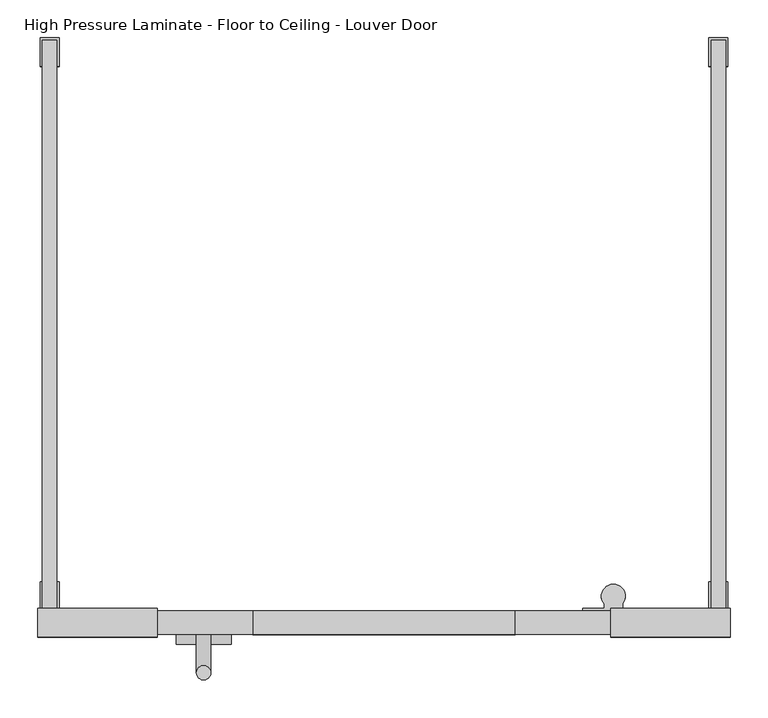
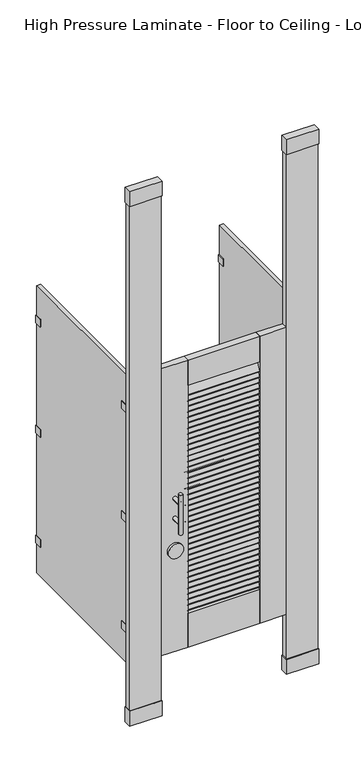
"""IFC4 building model written with IfcOpenShell, lengths in millimetres: proxy geometry, Toilet-Partition_Ironwood-Mfg_High-Pressure-Laminate : High Pressure Laminate - Floor to Ceiling - Louver Door."""

from ifc_helpers import new_model, si_unit, point, frame, frame_2d, origin, origin_with_axes, place, context, project, spatial, polyline, circle_curve, ellipse_curve, trimmed, segment, composite_curve, outline, extrude, source, transform, mapped, element, save
from ifc_brep_helpers import plane_surface, cylinder_surface, advanced_brep


def high_pressure_laminate_floor_to_ceiling_louver_door_e7c8061b(model_context):
    return source(origin(), model_context, "Body", "SolidModel", [
        extrude(outline(polyline([(542.925, -796.925), (542.925, -758.825), (701.675, -758.825), (701.675, -796.925), (542.925, -796.925)])), frame((0.0, 0.0, 2667.0), z_axis=(0.0, 0.0, 1.0), x_axis=(1.0, 0.0, 0.0)), (0.0, 0.0, 1.0), 76.1999999),
        extrude(outline(polyline([(701.675, -758.825), (701.675, -796.925), (542.925, -796.925), (542.925, -758.825), (701.675, -758.825)])), origin_with_axes(), (0.0, 0.0, 1.0), 76.2),
        extrude(outline(polyline([(698.5, -762.0), (698.5, -793.75), (546.1, -793.75), (546.1, -762.0), (698.5, -762.0)])), origin_with_axes(), (0.0, 0.0, 1.0), 2667.0),
        extrude(outline(polyline([(-60.325, -796.925), (-219.075, -796.925), (-219.075, -758.825), (-60.325, -758.825), (-60.325, -796.925)])), frame((0.0, 0.0, 2667.0), z_axis=(0.0, 0.0, 1.0), x_axis=(1.0, 0.0, 0.0)), (0.0, 0.0, 1.0), 76.1999999),
        extrude(outline(polyline([(-219.075, -758.825), (-60.325, -758.825), (-60.325, -796.925), (-219.075, -796.925), (-219.075, -758.825)])), origin_with_axes(), (0.0, 0.0, 1.0), 76.2),
        extrude(outline(polyline([(-215.9, -762.0), (-63.5, -762.0), (-63.5, -793.75), (-215.9, -793.75), (-215.9, -762.0)])), origin_with_axes(), (0.0, 0.0, 1.0), 2667.0),
        extrude(outline(composite_curve([segment(polyline([(-764.1333548, 1605.1687721), (-783.2892514, 1565.8933636)]), True, "CONTINUOUS"), segment(trimmed(circle_curve(frame_2d((-787.5697581, 1567.9811062)), 4.7625), [point((-783.2892514, 1565.8933636))], [point((-791.8502647, 1570.0688488))], False, "CARTESIAN"), True, "CONTINUOUS"), segment(polyline([(-791.8502647, 1570.0688488), (-772.6943681, 1609.3442573)]), True, "CONTINUOUS"), segment(trimmed(circle_curve(frame_2d((-768.4138614, 1607.2565147)), 4.7625), [point((-772.6943681, 1609.3442573))], [point((-764.1333548, 1605.1687721))], False, "CARTESIAN"), True, "CONTINUOUS")], self_intersect=False)), frame((66.675, 0.0, 0.0), z_axis=(1.0, 0.0, 0.0), x_axis=(0.0, 1.0, 0.0)), (0.0, 0.0, 1.0), 349.25),
        extrude(outline(composite_curve([segment(polyline([(-764.1333548, 1576.8525178), (-783.2892514, 1537.5771093)]), True, "CONTINUOUS"), segment(trimmed(circle_curve(frame_2d((-787.5697581, 1539.6648519)), 4.7625), [point((-783.2892514, 1537.5771093))], [point((-791.8502647, 1541.7525944))], False, "CARTESIAN"), True, "CONTINUOUS"), segment(polyline([(-791.8502647, 1541.7525944), (-772.6943681, 1581.0280029)]), True, "CONTINUOUS"), segment(trimmed(circle_curve(frame_2d((-768.4138614, 1578.9402604)), 4.7625), [point((-772.6943681, 1581.0280029))], [point((-764.1333548, 1576.8525178))], False, "CARTESIAN"), True, "CONTINUOUS")], self_intersect=False)), frame((66.675, 0.0, 0.0), z_axis=(1.0, 0.0, 0.0), x_axis=(0.0, 1.0, 0.0)), (0.0, 0.0, 1.0), 349.25),
        extrude(outline(composite_curve([segment(polyline([(-764.1333548, 1548.5362634), (-783.2892514, 1509.2608549)]), True, "CONTINUOUS"), segment(trimmed(circle_curve(frame_2d((-787.5697581, 1511.3485975)), 4.7625), [point((-783.2892514, 1509.2608549))], [point((-791.8502647, 1513.4363401))], False, "CARTESIAN"), True, "CONTINUOUS"), segment(polyline([(-791.8502647, 1513.4363401), (-772.6943681, 1552.7117486)]), True, "CONTINUOUS"), segment(trimmed(circle_curve(frame_2d((-768.4138614, 1550.624006)), 4.7625), [point((-772.6943681, 1552.7117486))], [point((-764.1333548, 1548.5362634))], False, "CARTESIAN"), True, "CONTINUOUS")], self_intersect=False)), frame((66.675, 0.0, 0.0), z_axis=(1.0, 0.0, 0.0), x_axis=(0.0, 1.0, 0.0)), (0.0, 0.0, 1.0), 349.25),
        extrude(outline(composite_curve([segment(polyline([(-764.1333548, 1520.220009), (-783.2892514, 1480.9446005)]), True, "CONTINUOUS"), segment(trimmed(circle_curve(frame_2d((-787.5697581, 1483.0323431)), 4.7625), [point((-783.2892514, 1480.9446005))], [point((-791.8502647, 1485.1200857))], False, "CARTESIAN"), True, "CONTINUOUS"), segment(polyline([(-791.8502647, 1485.1200857), (-772.6943681, 1524.3954942)]), True, "CONTINUOUS"), segment(trimmed(circle_curve(frame_2d((-768.4138614, 1522.3077516)), 4.7625), [point((-772.6943681, 1524.3954942))], [point((-764.1333548, 1520.220009))], False, "CARTESIAN"), True, "CONTINUOUS")], self_intersect=False)), frame((66.675, 0.0, 0.0), z_axis=(1.0, 0.0, 0.0), x_axis=(0.0, 1.0, 0.0)), (0.0, 0.0, 1.0), 349.25),
        extrude(outline(composite_curve([segment(polyline([(-764.1333548, 1491.9037547), (-783.2892514, 1452.6283462)]), True, "CONTINUOUS"), segment(trimmed(circle_curve(frame_2d((-787.5697581, 1454.7160888)), 4.7625), [point((-783.2892514, 1452.6283462))], [point((-791.8502647, 1456.8038313))], False, "CARTESIAN"), True, "CONTINUOUS"), segment(polyline([(-791.8502647, 1456.8038313), (-772.6943681, 1496.0792398)]), True, "CONTINUOUS"), segment(trimmed(circle_curve(frame_2d((-768.4138614, 1493.9914973)), 4.7625), [point((-772.6943681, 1496.0792398))], [point((-764.1333548, 1491.9037547))], False, "CARTESIAN"), True, "CONTINUOUS")], self_intersect=False)), frame((66.675, 0.0, 0.0), z_axis=(1.0, 0.0, 0.0), x_axis=(0.0, 1.0, 0.0)), (0.0, 0.0, 1.0), 349.25),
        extrude(outline(composite_curve([segment(polyline([(-764.1333548, 1463.5875003), (-783.2892514, 1424.3120918)]), True, "CONTINUOUS"), segment(trimmed(circle_curve(frame_2d((-787.5697581, 1426.3998344)), 4.7625), [point((-783.2892514, 1424.3120918))], [point((-791.8502647, 1428.487577))], False, "CARTESIAN"), True, "CONTINUOUS"), segment(polyline([(-791.8502647, 1428.487577), (-772.6943681, 1467.7629855)]), True, "CONTINUOUS"), segment(trimmed(circle_curve(frame_2d((-768.4138614, 1465.6752429)), 4.7625), [point((-772.6943681, 1467.7629855))], [point((-764.1333548, 1463.5875003))], False, "CARTESIAN"), True, "CONTINUOUS")], self_intersect=False)), frame((66.675, 0.0, 0.0), z_axis=(1.0, 0.0, 0.0), x_axis=(0.0, 1.0, 0.0)), (0.0, 0.0, 1.0), 349.25),
        extrude(outline(composite_curve([segment(polyline([(-764.1333548, 1435.2712459), (-783.2892514, 1395.9958374)]), True, "CONTINUOUS"), segment(trimmed(circle_curve(frame_2d((-787.5697581, 1398.08358)), 4.7625), [point((-783.2892514, 1395.9958374))], [point((-791.8502647, 1400.1713226))], False, "CARTESIAN"), True, "CONTINUOUS"), segment(polyline([(-791.8502647, 1400.1713226), (-772.6943681, 1439.4467311)]), True, "CONTINUOUS"), segment(trimmed(circle_curve(frame_2d((-768.4138614, 1437.3589885)), 4.7625), [point((-772.6943681, 1439.4467311))], [point((-764.1333548, 1435.2712459))], False, "CARTESIAN"), True, "CONTINUOUS")], self_intersect=False)), frame((66.675, 0.0, 0.0), z_axis=(1.0, 0.0, 0.0), x_axis=(0.0, 1.0, 0.0)), (0.0, 0.0, 1.0), 349.25),
        extrude(outline(composite_curve([segment(polyline([(-764.1333548, 1406.9549916), (-783.2892514, 1367.6795831)]), True, "CONTINUOUS"), segment(trimmed(circle_curve(frame_2d((-787.5697581, 1369.7673257)), 4.7625), [point((-783.2892514, 1367.6795831))], [point((-791.8502647, 1371.8550682))], False, "CARTESIAN"), True, "CONTINUOUS"), segment(polyline([(-791.8502647, 1371.8550682), (-772.6943681, 1411.1304767)]), True, "CONTINUOUS"), segment(trimmed(circle_curve(frame_2d((-768.4138614, 1409.0427342)), 4.7625), [point((-772.6943681, 1411.1304767))], [point((-764.1333548, 1406.9549916))], False, "CARTESIAN"), True, "CONTINUOUS")], self_intersect=False)), frame((66.675, 0.0, 0.0), z_axis=(1.0, 0.0, 0.0), x_axis=(0.0, 1.0, 0.0)), (0.0, 0.0, 1.0), 349.25),
        extrude(outline(composite_curve([segment(polyline([(-764.1333548, 1378.6387372), (-783.2892514, 1339.3633287)]), True, "CONTINUOUS"), segment(trimmed(circle_curve(frame_2d((-787.5697581, 1341.4510713)), 4.7625), [point((-783.2892514, 1339.3633287))], [point((-791.8502647, 1343.5388139))], False, "CARTESIAN"), True, "CONTINUOUS"), segment(polyline([(-791.8502647, 1343.5388139), (-772.6943681, 1382.8142224)]), True, "CONTINUOUS"), segment(trimmed(circle_curve(frame_2d((-768.4138614, 1380.7264798)), 4.7625), [point((-772.6943681, 1382.8142224))], [point((-764.1333548, 1378.6387372))], False, "CARTESIAN"), True, "CONTINUOUS")], self_intersect=False)), frame((66.675, 0.0, 0.0), z_axis=(1.0, 0.0, 0.0), x_axis=(0.0, 1.0, 0.0)), (0.0, 0.0, 1.0), 349.25),
        extrude(outline(composite_curve([segment(polyline([(-764.1333548, 1350.3224828), (-783.2892514, 1311.0470743)]), True, "CONTINUOUS"), segment(trimmed(circle_curve(frame_2d((-787.5697581, 1313.1348169)), 4.7625), [point((-783.2892514, 1311.0470743))], [point((-791.8502647, 1315.2225595))], False, "CARTESIAN"), True, "CONTINUOUS"), segment(polyline([(-791.8502647, 1315.2225595), (-772.6943681, 1354.497968)]), True, "CONTINUOUS"), segment(trimmed(circle_curve(frame_2d((-768.4138614, 1352.4102254)), 4.7625), [point((-772.6943681, 1354.497968))], [point((-764.1333548, 1350.3224828))], False, "CARTESIAN"), True, "CONTINUOUS")], self_intersect=False)), frame((66.675, 0.0, 0.0), z_axis=(1.0, 0.0, 0.0), x_axis=(0.0, 1.0, 0.0)), (0.0, 0.0, 1.0), 349.25),
        extrude(outline(composite_curve([segment(polyline([(-764.1333548, 1322.0062285), (-783.2892514, 1282.73082)]), True, "CONTINUOUS"), segment(trimmed(circle_curve(frame_2d((-787.5697581, 1284.8185626)), 4.7625), [point((-783.2892514, 1282.73082))], [point((-791.8502647, 1286.9063052))], False, "CARTESIAN"), True, "CONTINUOUS"), segment(polyline([(-791.8502647, 1286.9063052), (-772.6943681, 1326.1817137)]), True, "CONTINUOUS"), segment(trimmed(circle_curve(frame_2d((-768.4138614, 1324.0939711)), 4.7625), [point((-772.6943681, 1326.1817137))], [point((-764.1333548, 1322.0062285))], False, "CARTESIAN"), True, "CONTINUOUS")], self_intersect=False)), frame((66.675, 0.0, 0.0), z_axis=(1.0, 0.0, 0.0), x_axis=(0.0, 1.0, 0.0)), (0.0, 0.0, 1.0), 349.25),
        extrude(outline(composite_curve([segment(polyline([(-764.1333548, 1293.6899741), (-783.2892514, 1254.4145656)]), True, "CONTINUOUS"), segment(trimmed(circle_curve(frame_2d((-787.5697581, 1256.5023082)), 4.7625), [point((-783.2892514, 1254.4145656))], [point((-791.8502647, 1258.5900508))], False, "CARTESIAN"), True, "CONTINUOUS"), segment(polyline([(-791.8502647, 1258.5900508), (-772.6943681, 1297.8654593)]), True, "CONTINUOUS"), segment(trimmed(circle_curve(frame_2d((-768.4138614, 1295.7777167)), 4.7625), [point((-772.6943681, 1297.8654593))], [point((-764.1333548, 1293.6899741))], False, "CARTESIAN"), True, "CONTINUOUS")], self_intersect=False)), frame((66.675, 0.0, 0.0), z_axis=(1.0, 0.0, 0.0), x_axis=(0.0, 1.0, 0.0)), (0.0, 0.0, 1.0), 349.25),
        extrude(outline(composite_curve([segment(polyline([(-764.1333548, 1265.3737197), (-783.2892514, 1226.0983112)]), True, "CONTINUOUS"), segment(trimmed(circle_curve(frame_2d((-787.5697581, 1228.1860538)), 4.7625), [point((-783.2892514, 1226.0983112))], [point((-791.8502647, 1230.2737964))], False, "CARTESIAN"), True, "CONTINUOUS"), segment(polyline([(-791.8502647, 1230.2737964), (-772.6943681, 1269.5492049)]), True, "CONTINUOUS"), segment(trimmed(circle_curve(frame_2d((-768.4138614, 1267.4614623)), 4.7625), [point((-772.6943681, 1269.5492049))], [point((-764.1333548, 1265.3737197))], False, "CARTESIAN"), True, "CONTINUOUS")], self_intersect=False)), frame((66.675, 0.0, 0.0), z_axis=(1.0, 0.0, 0.0), x_axis=(0.0, 1.0, 0.0)), (0.0, 0.0, 1.0), 349.25),
        extrude(outline(composite_curve([segment(polyline([(-764.1333548, 1237.0574654), (-783.2892514, 1197.7820569)]), True, "CONTINUOUS"), segment(trimmed(circle_curve(frame_2d((-787.5697581, 1199.8697995)), 4.7625), [point((-783.2892514, 1197.7820569))], [point((-791.8502647, 1201.9575421))], False, "CARTESIAN"), True, "CONTINUOUS"), segment(polyline([(-791.8502647, 1201.9575421), (-772.6943681, 1241.2329506)]), True, "CONTINUOUS"), segment(trimmed(circle_curve(frame_2d((-768.4138614, 1239.145208)), 4.7625), [point((-772.6943681, 1241.2329506))], [point((-764.1333548, 1237.0574654))], False, "CARTESIAN"), True, "CONTINUOUS")], self_intersect=False)), frame((66.675, 0.0, 0.0), z_axis=(1.0, 0.0, 0.0), x_axis=(0.0, 1.0, 0.0)), (0.0, 0.0, 1.0), 349.25),
        extrude(outline(composite_curve([segment(polyline([(-764.1333548, 1208.741211), (-783.2892514, 1169.4658025)]), True, "CONTINUOUS"), segment(trimmed(circle_curve(frame_2d((-787.5697581, 1171.5535451)), 4.7625), [point((-783.2892514, 1169.4658025))], [point((-791.8502647, 1173.6412877))], False, "CARTESIAN"), True, "CONTINUOUS"), segment(polyline([(-791.8502647, 1173.6412877), (-772.6943681, 1212.9166962)]), True, "CONTINUOUS"), segment(trimmed(circle_curve(frame_2d((-768.4138614, 1210.8289536)), 4.7625), [point((-772.6943681, 1212.9166962))], [point((-764.1333548, 1208.741211))], False, "CARTESIAN"), True, "CONTINUOUS")], self_intersect=False)), frame((66.675, 0.0, 0.0), z_axis=(1.0, 0.0, 0.0), x_axis=(0.0, 1.0, 0.0)), (0.0, 0.0, 1.0), 349.25),
        extrude(outline(composite_curve([segment(polyline([(-764.1333548, 1180.4249567), (-783.2892514, 1141.1495482)]), True, "CONTINUOUS"), segment(trimmed(circle_curve(frame_2d((-787.5697581, 1143.2372907)), 4.7625), [point((-783.2892514, 1141.1495482))], [point((-791.8502647, 1145.3250333))], False, "CARTESIAN"), True, "CONTINUOUS"), segment(polyline([(-791.8502647, 1145.3250333), (-772.6943681, 1184.6004418)]), True, "CONTINUOUS"), segment(trimmed(circle_curve(frame_2d((-768.4138614, 1182.5126992)), 4.7625), [point((-772.6943681, 1184.6004418))], [point((-764.1333548, 1180.4249567))], False, "CARTESIAN"), True, "CONTINUOUS")], self_intersect=False)), frame((66.675, 0.0, 0.0), z_axis=(1.0, 0.0, 0.0), x_axis=(0.0, 1.0, 0.0)), (0.0, 0.0, 1.0), 349.25),
        extrude(outline(composite_curve([segment(polyline([(-764.1333548, 1152.1087023), (-783.2892514, 1112.8332938)]), True, "CONTINUOUS"), segment(trimmed(circle_curve(frame_2d((-787.5697581, 1114.9210364)), 4.7625), [point((-783.2892514, 1112.8332938))], [point((-791.8502647, 1117.008779))], False, "CARTESIAN"), True, "CONTINUOUS"), segment(polyline([(-791.8502647, 1117.008779), (-772.6943681, 1156.2841875)]), True, "CONTINUOUS"), segment(trimmed(circle_curve(frame_2d((-768.4138614, 1154.1964449)), 4.7625), [point((-772.6943681, 1156.2841875))], [point((-764.1333548, 1152.1087023))], False, "CARTESIAN"), True, "CONTINUOUS")], self_intersect=False)), frame((66.675, 0.0, 0.0), z_axis=(1.0, 0.0, 0.0), x_axis=(0.0, 1.0, 0.0)), (0.0, 0.0, 1.0), 349.25),
        extrude(outline(composite_curve([segment(polyline([(-764.1333548, 1123.7924479), (-783.2892514, 1084.5170394)]), True, "CONTINUOUS"), segment(trimmed(circle_curve(frame_2d((-787.5697581, 1086.604782)), 4.7625), [point((-783.2892514, 1084.5170394))], [point((-791.8502647, 1088.6925246))], False, "CARTESIAN"), True, "CONTINUOUS"), segment(polyline([(-791.8502647, 1088.6925246), (-772.6943681, 1127.9679331)]), True, "CONTINUOUS"), segment(trimmed(circle_curve(frame_2d((-768.4138614, 1125.8801905)), 4.7625), [point((-772.6943681, 1127.9679331))], [point((-764.1333548, 1123.7924479))], False, "CARTESIAN"), True, "CONTINUOUS")], self_intersect=False)), frame((66.675, 0.0, 0.0), z_axis=(1.0, 0.0, 0.0), x_axis=(0.0, 1.0, 0.0)), (0.0, 0.0, 1.0), 349.25),
        extrude(outline(composite_curve([segment(polyline([(-764.1333548, 1095.4761936), (-783.2892514, 1056.2007851)]), True, "CONTINUOUS"), segment(trimmed(circle_curve(frame_2d((-787.5697581, 1058.2885276)), 4.7625), [point((-783.2892514, 1056.2007851))], [point((-791.8502647, 1060.3762702))], False, "CARTESIAN"), True, "CONTINUOUS"), segment(polyline([(-791.8502647, 1060.3762702), (-772.6943681, 1099.6516787)]), True, "CONTINUOUS"), segment(trimmed(circle_curve(frame_2d((-768.4138614, 1097.5639361)), 4.7625), [point((-772.6943681, 1099.6516787))], [point((-764.1333548, 1095.4761936))], False, "CARTESIAN"), True, "CONTINUOUS")], self_intersect=False)), frame((66.675, 0.0, 0.0), z_axis=(1.0, 0.0, 0.0), x_axis=(0.0, 1.0, 0.0)), (0.0, 0.0, 1.0), 349.25),
        extrude(outline(composite_curve([segment(polyline([(-764.1333548, 1067.1599392), (-783.2892514, 1027.8845307)]), True, "CONTINUOUS"), segment(trimmed(circle_curve(frame_2d((-787.5697581, 1029.9722733)), 4.7625), [point((-783.2892514, 1027.8845307))], [point((-791.8502647, 1032.0600159))], False, "CARTESIAN"), True, "CONTINUOUS"), segment(polyline([(-791.8502647, 1032.0600159), (-772.6943681, 1071.3354244)]), True, "CONTINUOUS"), segment(trimmed(circle_curve(frame_2d((-768.4138614, 1069.2476818)), 4.7625), [point((-772.6943681, 1071.3354244))], [point((-764.1333548, 1067.1599392))], False, "CARTESIAN"), True, "CONTINUOUS")], self_intersect=False)), frame((66.675, 0.0, 0.0), z_axis=(1.0, 0.0, 0.0), x_axis=(0.0, 1.0, 0.0)), (0.0, 0.0, 1.0), 349.25),
        extrude(outline(composite_curve([segment(polyline([(-764.1333548, 1038.8436848), (-783.2892514, 999.5682763)]), True, "CONTINUOUS"), segment(trimmed(circle_curve(frame_2d((-787.5697581, 1001.6560189)), 4.7625), [point((-783.2892514, 999.5682763))], [point((-791.8502647, 1003.7437615))], False, "CARTESIAN"), True, "CONTINUOUS"), segment(polyline([(-791.8502647, 1003.7437615), (-772.6943681, 1043.01917)]), True, "CONTINUOUS"), segment(trimmed(circle_curve(frame_2d((-768.4138614, 1040.9314274)), 4.7625), [point((-772.6943681, 1043.01917))], [point((-764.1333548, 1038.8436848))], False, "CARTESIAN"), True, "CONTINUOUS")], self_intersect=False)), frame((66.675, 0.0, 0.0), z_axis=(1.0, 0.0, 0.0), x_axis=(0.0, 1.0, 0.0)), (0.0, 0.0, 1.0), 349.25),
        extrude(outline(composite_curve([segment(polyline([(-764.1333548, 1010.5274305), (-783.2892514, 971.252022)]), True, "CONTINUOUS"), segment(trimmed(circle_curve(frame_2d((-787.5697581, 973.3397645)), 4.7625), [point((-783.2892514, 971.252022))], [point((-791.8502647, 975.4275071))], False, "CARTESIAN"), True, "CONTINUOUS"), segment(polyline([(-791.8502647, 975.4275071), (-772.6943681, 1014.7029156)]), True, "CONTINUOUS"), segment(trimmed(circle_curve(frame_2d((-768.4138614, 1012.615173)), 4.7625), [point((-772.6943681, 1014.7029156))], [point((-764.1333548, 1010.5274305))], False, "CARTESIAN"), True, "CONTINUOUS")], self_intersect=False)), frame((66.675, 0.0, 0.0), z_axis=(1.0, 0.0, 0.0), x_axis=(0.0, 1.0, 0.0)), (0.0, 0.0, 1.0), 349.25),
        extrude(outline(composite_curve([segment(polyline([(-764.1333548, 982.2111761), (-783.2892514, 942.9357676)]), True, "CONTINUOUS"), segment(trimmed(circle_curve(frame_2d((-787.5697581, 945.0235102)), 4.7625), [point((-783.2892514, 942.9357676))], [point((-791.8502647, 947.1112528))], False, "CARTESIAN"), True, "CONTINUOUS"), segment(polyline([(-791.8502647, 947.1112528), (-772.6943681, 986.3866613)]), True, "CONTINUOUS"), segment(trimmed(circle_curve(frame_2d((-768.4138614, 984.2989187)), 4.7625), [point((-772.6943681, 986.3866613))], [point((-764.1333548, 982.2111761))], False, "CARTESIAN"), True, "CONTINUOUS")], self_intersect=False)), frame((66.675, 0.0, 0.0), z_axis=(1.0, 0.0, 0.0), x_axis=(0.0, 1.0, 0.0)), (0.0, 0.0, 1.0), 349.25),
        extrude(outline(composite_curve([segment(polyline([(-764.1333548, 953.8949217), (-783.2892514, 914.6195132)]), True, "CONTINUOUS"), segment(trimmed(circle_curve(frame_2d((-787.5697581, 916.7072558)), 4.7625), [point((-783.2892514, 914.6195132))], [point((-791.8502647, 918.7949984))], False, "CARTESIAN"), True, "CONTINUOUS"), segment(polyline([(-791.8502647, 918.7949984), (-772.6943681, 958.0704069)]), True, "CONTINUOUS"), segment(trimmed(circle_curve(frame_2d((-768.4138614, 955.9826643)), 4.7625), [point((-772.6943681, 958.0704069))], [point((-764.1333548, 953.8949217))], False, "CARTESIAN"), True, "CONTINUOUS")], self_intersect=False)), frame((66.675, 0.0, 0.0), z_axis=(1.0, 0.0, 0.0), x_axis=(0.0, 1.0, 0.0)), (0.0, 0.0, 1.0), 349.25),
        extrude(outline(composite_curve([segment(polyline([(-764.1333548, 925.5786674), (-783.2892514, 886.3032589)]), True, "CONTINUOUS"), segment(trimmed(circle_curve(frame_2d((-787.5697581, 888.3910014)), 4.7625), [point((-783.2892514, 886.3032589))], [point((-791.8502647, 890.478744))], False, "CARTESIAN"), True, "CONTINUOUS"), segment(polyline([(-791.8502647, 890.478744), (-772.6943681, 929.7541525)]), True, "CONTINUOUS"), segment(trimmed(circle_curve(frame_2d((-768.4138614, 927.6664099)), 4.7625), [point((-772.6943681, 929.7541525))], [point((-764.1333548, 925.5786674))], False, "CARTESIAN"), True, "CONTINUOUS")], self_intersect=False)), frame((66.675, 0.0, 0.0), z_axis=(1.0, 0.0, 0.0), x_axis=(0.0, 1.0, 0.0)), (0.0, 0.0, 1.0), 349.25),
        extrude(outline(composite_curve([segment(polyline([(-764.1333548, 897.262413), (-783.2892514, 857.9870045)]), True, "CONTINUOUS"), segment(trimmed(circle_curve(frame_2d((-787.5697581, 860.0747471)), 4.7625), [point((-783.2892514, 857.9870045))], [point((-791.8502647, 862.1624897))], False, "CARTESIAN"), True, "CONTINUOUS"), segment(polyline([(-791.8502647, 862.1624897), (-772.6943681, 901.4378982)]), True, "CONTINUOUS"), segment(trimmed(circle_curve(frame_2d((-768.4138614, 899.3501556)), 4.7625), [point((-772.6943681, 901.4378982))], [point((-764.1333548, 897.262413))], False, "CARTESIAN"), True, "CONTINUOUS")], self_intersect=False)), frame((66.675, 0.0, 0.0), z_axis=(1.0, 0.0, 0.0), x_axis=(0.0, 1.0, 0.0)), (0.0, 0.0, 1.0), 349.25),
        extrude(outline(composite_curve([segment(polyline([(-764.1333548, 868.9461586), (-783.2892514, 829.6707501)]), True, "CONTINUOUS"), segment(trimmed(circle_curve(frame_2d((-787.5697581, 831.7584927)), 4.7625), [point((-783.2892514, 829.6707501))], [point((-791.8502647, 833.8462353))], False, "CARTESIAN"), True, "CONTINUOUS"), segment(polyline([(-791.8502647, 833.8462353), (-772.6943681, 873.1216438)]), True, "CONTINUOUS"), segment(trimmed(circle_curve(frame_2d((-768.4138614, 871.0339012)), 4.7625), [point((-772.6943681, 873.1216438))], [point((-764.1333548, 868.9461586))], False, "CARTESIAN"), True, "CONTINUOUS")], self_intersect=False)), frame((66.675, 0.0, 0.0), z_axis=(1.0, 0.0, 0.0), x_axis=(0.0, 1.0, 0.0)), (0.0, 0.0, 1.0), 349.25),
        extrude(outline(composite_curve([segment(polyline([(-764.1333548, 840.6299043), (-783.2892514, 801.3544958)]), True, "CONTINUOUS"), segment(trimmed(circle_curve(frame_2d((-787.5697581, 803.4422384)), 4.7625), [point((-783.2892514, 801.3544958))], [point((-791.8502647, 805.5299809))], False, "CARTESIAN"), True, "CONTINUOUS"), segment(polyline([(-791.8502647, 805.5299809), (-772.6943681, 844.8053894)]), True, "CONTINUOUS"), segment(trimmed(circle_curve(frame_2d((-768.4138614, 842.7176469)), 4.7625), [point((-772.6943681, 844.8053894))], [point((-764.1333548, 840.6299043))], False, "CARTESIAN"), True, "CONTINUOUS")], self_intersect=False)), frame((66.675, 0.0, 0.0), z_axis=(1.0, 0.0, 0.0), x_axis=(0.0, 1.0, 0.0)), (0.0, 0.0, 1.0), 349.25),
        extrude(outline(composite_curve([segment(polyline([(-764.1333548, 812.3136499), (-783.2892514, 773.0382414)]), True, "CONTINUOUS"), segment(trimmed(circle_curve(frame_2d((-787.5697581, 775.125984)), 4.7625), [point((-783.2892514, 773.0382414))], [point((-791.8502647, 777.2137266))], False, "CARTESIAN"), True, "CONTINUOUS"), segment(polyline([(-791.8502647, 777.2137266), (-772.6943681, 816.4891351)]), True, "CONTINUOUS"), segment(trimmed(circle_curve(frame_2d((-768.4138614, 814.4013925)), 4.7625), [point((-772.6943681, 816.4891351))], [point((-764.1333548, 812.3136499))], False, "CARTESIAN"), True, "CONTINUOUS")], self_intersect=False)), frame((66.675, 0.0, 0.0), z_axis=(1.0, 0.0, 0.0), x_axis=(0.0, 1.0, 0.0)), (0.0, 0.0, 1.0), 349.25),
        extrude(outline(composite_curve([segment(polyline([(-764.1333548, 783.9973955), (-783.2892514, 744.721987)]), True, "CONTINUOUS"), segment(trimmed(circle_curve(frame_2d((-787.5697581, 746.8097296)), 4.7625), [point((-783.2892514, 744.721987))], [point((-791.8502647, 748.8974722))], False, "CARTESIAN"), True, "CONTINUOUS"), segment(polyline([(-791.8502647, 748.8974722), (-772.6943681, 788.1728807)]), True, "CONTINUOUS"), segment(trimmed(circle_curve(frame_2d((-768.4138614, 786.0851381)), 4.7625), [point((-772.6943681, 788.1728807))], [point((-764.1333548, 783.9973955))], False, "CARTESIAN"), True, "CONTINUOUS")], self_intersect=False)), frame((66.675, 0.0, 0.0), z_axis=(1.0, 0.0, 0.0), x_axis=(0.0, 1.0, 0.0)), (0.0, 0.0, 1.0), 349.25),
        extrude(outline(composite_curve([segment(polyline([(-764.1333548, 755.6811412), (-783.2892514, 716.4057327)]), True, "CONTINUOUS"), segment(trimmed(circle_curve(frame_2d((-787.5697581, 718.4934753)), 4.7625), [point((-783.2892514, 716.4057327))], [point((-791.8502647, 720.5812178))], False, "CARTESIAN"), True, "CONTINUOUS"), segment(polyline([(-791.8502647, 720.5812178), (-772.6943681, 759.8566263)]), True, "CONTINUOUS"), segment(trimmed(circle_curve(frame_2d((-768.4138614, 757.7688838)), 4.7625), [point((-772.6943681, 759.8566263))], [point((-764.1333548, 755.6811412))], False, "CARTESIAN"), True, "CONTINUOUS")], self_intersect=False)), frame((66.675, 0.0, 0.0), z_axis=(1.0, 0.0, 0.0), x_axis=(0.0, 1.0, 0.0)), (0.0, 0.0, 1.0), 349.25),
        extrude(outline(composite_curve([segment(polyline([(-764.1333548, 727.3648868), (-783.2892514, 688.0894783)]), True, "CONTINUOUS"), segment(trimmed(circle_curve(frame_2d((-787.5697581, 690.1772209)), 4.7625), [point((-783.2892514, 688.0894783))], [point((-791.8502647, 692.2649635))], False, "CARTESIAN"), True, "CONTINUOUS"), segment(polyline([(-791.8502647, 692.2649635), (-772.6943681, 731.540372)]), True, "CONTINUOUS"), segment(trimmed(circle_curve(frame_2d((-768.4138614, 729.4526294)), 4.7625), [point((-772.6943681, 731.540372))], [point((-764.1333548, 727.3648868))], False, "CARTESIAN"), True, "CONTINUOUS")], self_intersect=False)), frame((66.675, 0.0, 0.0), z_axis=(1.0, 0.0, 0.0), x_axis=(0.0, 1.0, 0.0)), (0.0, 0.0, 1.0), 349.25),
        extrude(outline(composite_curve([segment(polyline([(-764.1333548, 699.0486324), (-783.2892514, 659.7732239)]), True, "CONTINUOUS"), segment(trimmed(circle_curve(frame_2d((-787.5697581, 661.8609665)), 4.7625), [point((-783.2892514, 659.7732239))], [point((-791.8502647, 663.9487091))], False, "CARTESIAN"), True, "CONTINUOUS"), segment(polyline([(-791.8502647, 663.9487091), (-772.6943681, 703.2241176)]), True, "CONTINUOUS"), segment(trimmed(circle_curve(frame_2d((-768.4138614, 701.136375)), 4.7625), [point((-772.6943681, 703.2241176))], [point((-764.1333548, 699.0486324))], False, "CARTESIAN"), True, "CONTINUOUS")], self_intersect=False)), frame((66.675, 0.0, 0.0), z_axis=(1.0, 0.0, 0.0), x_axis=(0.0, 1.0, 0.0)), (0.0, 0.0, 1.0), 349.25),
        extrude(outline(composite_curve([segment(polyline([(-764.1333548, 670.7323781), (-783.2892514, 631.4569696)]), True, "CONTINUOUS"), segment(trimmed(circle_curve(frame_2d((-787.5697581, 633.5447122)), 4.7625), [point((-783.2892514, 631.4569696))], [point((-791.8502647, 635.6324547))], False, "CARTESIAN"), True, "CONTINUOUS"), segment(polyline([(-791.8502647, 635.6324547), (-772.6943681, 674.9078632)]), True, "CONTINUOUS"), segment(trimmed(circle_curve(frame_2d((-768.4138614, 672.8201207)), 4.7625), [point((-772.6943681, 674.9078632))], [point((-764.1333548, 670.7323781))], False, "CARTESIAN"), True, "CONTINUOUS")], self_intersect=False)), frame((66.675, 0.0, 0.0), z_axis=(1.0, 0.0, 0.0), x_axis=(0.0, 1.0, 0.0)), (0.0, 0.0, 1.0), 349.25),
        extrude(outline(composite_curve([segment(polyline([(-764.1333548, 642.4161237), (-783.2892514, 603.1407152)]), True, "CONTINUOUS"), segment(trimmed(circle_curve(frame_2d((-787.5697581, 605.2284578)), 4.7625), [point((-783.2892514, 603.1407152))], [point((-791.8502647, 607.3162004))], False, "CARTESIAN"), True, "CONTINUOUS"), segment(polyline([(-791.8502647, 607.3162004), (-772.6943681, 646.5916089)]), True, "CONTINUOUS"), segment(trimmed(circle_curve(frame_2d((-768.4138614, 644.5038663)), 4.7625), [point((-772.6943681, 646.5916089))], [point((-764.1333548, 642.4161237))], False, "CARTESIAN"), True, "CONTINUOUS")], self_intersect=False)), frame((66.675, 0.0, 0.0), z_axis=(1.0, 0.0, 0.0), x_axis=(0.0, 1.0, 0.0)), (0.0, 0.0, 1.0), 349.25),
        extrude(outline(composite_curve([segment(polyline([(-764.1333548, 614.0998693), (-783.2892514, 574.8244608)]), True, "CONTINUOUS"), segment(trimmed(circle_curve(frame_2d((-787.5697581, 576.9122034)), 4.7625), [point((-783.2892514, 574.8244608))], [point((-791.8502647, 578.999946))], False, "CARTESIAN"), True, "CONTINUOUS"), segment(polyline([(-791.8502647, 578.999946), (-772.6943681, 618.2753545)]), True, "CONTINUOUS"), segment(trimmed(circle_curve(frame_2d((-768.4138614, 616.1876119)), 4.7625), [point((-772.6943681, 618.2753545))], [point((-764.1333548, 614.0998693))], False, "CARTESIAN"), True, "CONTINUOUS")], self_intersect=False)), frame((66.675, 0.0, 0.0), z_axis=(1.0, 0.0, 0.0), x_axis=(0.0, 1.0, 0.0)), (0.0, 0.0, 1.0), 349.25),
        extrude(outline(composite_curve([segment(polyline([(-764.1333548, 585.783615), (-783.2892514, 546.5082065)]), True, "CONTINUOUS"), segment(trimmed(circle_curve(frame_2d((-787.5697581, 548.5959491)), 4.7625), [point((-783.2892514, 546.5082065))], [point((-791.8502647, 550.6836917))], False, "CARTESIAN"), True, "CONTINUOUS"), segment(polyline([(-791.8502647, 550.6836917), (-772.6943681, 589.9591001)]), True, "CONTINUOUS"), segment(trimmed(circle_curve(frame_2d((-768.4138614, 587.8713576)), 4.7625), [point((-772.6943681, 589.9591001))], [point((-764.1333548, 585.783615))], False, "CARTESIAN"), True, "CONTINUOUS")], self_intersect=False)), frame((66.675, 0.0, 0.0), z_axis=(1.0, 0.0, 0.0), x_axis=(0.0, 1.0, 0.0)), (0.0, 0.0, 1.0), 349.25),
        extrude(outline(composite_curve([segment(polyline([(-764.1333548, 557.4673606), (-783.2892514, 518.1919521)]), True, "CONTINUOUS"), segment(trimmed(circle_curve(frame_2d((-787.5697581, 520.2796947)), 4.7625), [point((-783.2892514, 518.1919521))], [point((-791.8502647, 522.3674373))], False, "CARTESIAN"), True, "CONTINUOUS"), segment(polyline([(-791.8502647, 522.3674373), (-772.6943681, 561.6428458)]), True, "CONTINUOUS"), segment(trimmed(circle_curve(frame_2d((-768.4138614, 559.5551032)), 4.7625), [point((-772.6943681, 561.6428458))], [point((-764.1333548, 557.4673606))], False, "CARTESIAN"), True, "CONTINUOUS")], self_intersect=False)), frame((66.675, 0.0, 0.0), z_axis=(1.0, 0.0, 0.0), x_axis=(0.0, 1.0, 0.0)), (0.0, 0.0, 1.0), 349.25),
        extrude(outline(composite_curve([segment(polyline([(-764.1333548, 1633.4850265), (-783.2892514, 1594.209618)]), True, "CONTINUOUS"), segment(trimmed(circle_curve(frame_2d((-787.5697581, 1596.2973606)), 4.7625), [point((-783.2892514, 1594.209618))], [point((-791.8502647, 1598.3851032))], False, "CARTESIAN"), True, "CONTINUOUS"), segment(polyline([(-791.8502647, 1598.3851032), (-772.6943681, 1637.6605117)]), True, "CONTINUOUS"), segment(trimmed(circle_curve(frame_2d((-768.4138614, 1635.5727691)), 4.7625), [point((-772.6943681, 1637.6605117))], [point((-764.1333548, 1633.4850265))], False, "CARTESIAN"), True, "CONTINUOUS")], self_intersect=False)), frame((66.675, 0.0, 0.0), z_axis=(1.0, 0.0, 0.0), x_axis=(0.0, 1.0, 0.0)), (0.0, 0.0, 1.0), 349.25),
        extrude(outline(composite_curve([segment(polyline([(-764.1333548, 529.1511062), (-783.2892514, 489.8756977)]), True, "CONTINUOUS"), segment(trimmed(circle_curve(frame_2d((-787.5697581, 491.9634403)), 4.7625), [point((-783.2892514, 489.8756977))], [point((-791.8502647, 494.0511829))], False, "CARTESIAN"), True, "CONTINUOUS"), segment(polyline([(-791.8502647, 494.0511829), (-772.6943681, 533.3265914)]), True, "CONTINUOUS"), segment(trimmed(circle_curve(frame_2d((-768.4138614, 531.2388488)), 4.7625), [point((-772.6943681, 533.3265914))], [point((-764.1333548, 529.1511062))], False, "CARTESIAN"), True, "CONTINUOUS")], self_intersect=False)), frame((66.675, 0.0, 0.0), z_axis=(1.0, 0.0, 0.0), x_axis=(0.0, 1.0, 0.0)), (0.0, 0.0, 1.0), 349.25),
        extrude(outline(polyline([(66.675, -762.0), (66.675, -793.75), (-63.5, -793.75), (-63.5, -762.0), (66.675, -762.0)])), frame((0.0, 0.0, 304.8), z_axis=(0.0, 0.0, 1.0), x_axis=(1.0, 0.0, 0.0)), (0.0, 0.0, 1.0), 1473.2),
        extrude(outline(polyline([(415.925, -762.0), (546.1, -762.0), (546.1, -793.75), (415.925, -793.75), (415.925, -762.0)])), frame((0.0, 0.0, 304.8), z_axis=(0.0, 0.0, 1.0), x_axis=(1.0, 0.0, 0.0)), (0.0, 0.0, 1.0), 1473.2),
        extrude(outline(polyline([(415.925, -762.0), (415.925, -793.75), (66.675, -793.75), (66.675, -762.0), (415.925, -762.0)])), frame((0.0, 0.0, 1647.825), z_axis=(0.0, 0.0, 1.0), x_axis=(1.0, 0.0, 0.0)), (0.0, 0.0, 1.0), 130.175),
        extrude(outline(polyline([(415.925, -762.0), (415.925, -793.75), (66.675, -793.75), (66.675, -762.0), (415.925, -762.0)])), frame((0.0, 0.0, 304.8), z_axis=(0.0, 0.0, 1.0), x_axis=(1.0, 0.0, 0.0)), (0.0, 0.0, 1.0), 174.625),
        extrude(outline(composite_curve([segment(trimmed(circle_curve(frame_2d((827.0875, 1.5875)), 36.5125), [point((827.0875, -34.925))], [point((827.0875, 38.1))], False, "CARTESIAN"), True, "CONTINUOUS"), segment(trimmed(circle_curve(frame_2d((827.0875, 1.5875)), 36.5125), [point((827.0875, 38.1))], [point((827.0875, -34.925))], False, "CARTESIAN"), True, "CONTINUOUS")], self_intersect=False)), frame((0.0, -806.45, 0.0), z_axis=(0.0, 1.0, 0.0), x_axis=(0.0, 0.0, 1.0)), (0.0, 0.0, 1.0), 12.7),
        advanced_brep(
        [(-7.9375, -793.75, 1092.2), (11.1125, -793.75, 1092.2), (-7.9375, -793.75, 990.6), (11.1125, -793.75, 990.6), (11.1125, -844.55, 1092.2), (-7.9375, -844.55, 1092.2), (11.1125, -844.55, 990.6), (-7.9375, -844.55, 990.6), (-7.9375, -844.55, 1143.0), (11.1125, -844.55, 1143.0), (-7.9375, -844.55, 939.8), (11.1125, -844.55, 939.8)],
        [
            (0, 1, circle_curve(frame((1.5875, -793.75, 1092.2), z_axis=(0.0, 1.0, 0.0), x_axis=(1.0, 0.0, 0.0)), 9.525)),
            (1, 0, circle_curve(frame((1.5875, -793.75, 1092.2), z_axis=(0.0, 1.0, 0.0), x_axis=(1.0, 0.0, 0.0)), 9.525)),
            (2, 3, circle_curve(frame((1.5875, -793.75, 990.6), z_axis=(0.0, 1.0, 0.0), x_axis=(1.0, 0.0, 0.0)), 9.525)),
            (3, 2, circle_curve(frame((1.5875, -793.75, 990.6), z_axis=(0.0, 1.0, 0.0), x_axis=(1.0, 0.0, 0.0)), 9.525)),
            (1, 4),
            (4, 5, ellipse_curve(frame((1.5875, -844.55, 1092.2), z_axis=(0.0, 0.7071067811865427, 0.7071067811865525), x_axis=(0.0, -0.7071067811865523, 0.7071067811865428)), 13.4703842, 9.525)),
            (5, 0),
            (5, 4, ellipse_curve(frame((1.5875, -844.55, 1092.2), z_axis=(0.0, 0.7071067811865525, -0.7071067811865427), x_axis=(0.0, -0.7071067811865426, -0.7071067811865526)), 13.4703842, 9.525)),
            (3, 6),
            (6, 7, ellipse_curve(frame((1.5875, -844.55, 990.6), z_axis=(0.0, 0.7071067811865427, 0.7071067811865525), x_axis=(0.0, -0.7071067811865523, 0.7071067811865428)), 13.4703842, 9.525)),
            (7, 2),
            (7, 6, ellipse_curve(frame((1.5875, -844.55, 990.6), z_axis=(0.0, 0.7071067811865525, -0.7071067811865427), x_axis=(0.0, -0.7071067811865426, -0.7071067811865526)), 13.4703842, 9.525)),
            (8, 9, circle_curve(frame((1.5875, -844.55, 1143.0), z_axis=(0.0, 0.0, 1.0), x_axis=(1.0, 0.0, 0.0)), 9.525)),
            (9, 8, circle_curve(frame((1.5875, -844.55, 1143.0), z_axis=(0.0, 0.0, 1.0), x_axis=(1.0, 0.0, 0.0)), 9.525)),
            (10, 11, circle_curve(frame((1.5875, -844.55, 939.8), z_axis=(0.0, 0.0, -1.0), x_axis=(1.0, 0.0, 0.0)), 9.525)),
            (11, 10, circle_curve(frame((1.5875, -844.55, 939.8), z_axis=(0.0, 0.0, -1.0), x_axis=(1.0, 0.0, 0.0)), 9.525)),
            (8, 5),
            (5, 7),
            (7, 10),
            (11, 6),
            (6, 4),
            (4, 9),
        ],
        [
            plane_surface(frame((11.1125, -793.75, 1092.2), z_axis=(0.0, 1.0, 0.0), x_axis=(0.0, 0.0, -1.0))),
            cylinder_surface(frame((1.5875, -793.75, 1092.2), z_axis=(0.0, -1.0, 0.0), x_axis=(1.0, 0.0, 0.0)), 9.525),
            cylinder_surface(frame((1.5875, -793.75, 990.6), z_axis=(0.0, -1.0, 0.0), x_axis=(1.0, 0.0, 0.0)), 9.525),
            plane_surface(frame((11.1125, -844.55, 1143.0), z_axis=(0.0, 0.0, 1.0), x_axis=(0.0, 1.0, 0.0))),
            plane_surface(frame((11.1125, -844.55, 939.8), z_axis=(0.0, 0.0, -1.0), x_axis=(0.0, -1.0, 0.0))),
            cylinder_surface(frame((1.5875, -844.55, 939.8), z_axis=(0.0, 0.0, 1.0), x_axis=(1.0, 0.0, 0.0)), 9.525),
        ],
        [
            (0, [[1, 2]]),
            (0, [[3, 4]]),
            (1, [[-2, 5, 6, 7]]),
            (1, [[-1, -7, 8, -5]]),
            (2, [[-4, 9, 10, 11]]),
            (2, [[-3, -11, 12, -9]]),
            (3, [[13, 14]]),
            (4, [[15, 16]]),
            (5, [[-13, 17, 18, 19, -16, 20, 21, 22]]),
            (5, [[-14, -22, -8, -17]]),
            (5, [[-15, -19, -10, -20]]),
            (5, [[-18, -6, -21, -12]]),
        ],
    ),
        extrude(outline(composite_curve([segment(polyline([(581.3737081, -762.0), (505.1737081, -762.0), (505.1737081, -758.825), (533.7487081, -758.825), (533.7487081, -752.9581331)]), True, "CONTINUOUS"), segment(trimmed(circle_curve(frame_2d((546.1, -742.8902139)), 15.9347861), [point((533.7487081, -752.9581331))], [point((558.4512919, -752.9581331))], False, "CARTESIAN"), True, "CONTINUOUS"), segment(polyline([(558.4512919, -752.9581331), (558.4512919, -758.825), (581.3737081, -758.825), (581.3737081, -762.0)]), True, "CONTINUOUS")], self_intersect=False)), frame((0.0, 0.0, 1574.8), z_axis=(0.0, 0.0, 1.0), x_axis=(1.0, 0.0, 0.0)), (0.0, 0.0, 1.0), 63.5),
        extrude(outline(composite_curve([segment(polyline([(581.3737081, -762.0), (505.1737081, -762.0), (505.1737081, -758.825), (533.7487081, -758.825), (533.7487081, -752.9581331)]), True, "CONTINUOUS"), segment(trimmed(circle_curve(frame_2d((546.1, -742.8902139)), 15.9347861), [point((533.7487081, -752.9581331))], [point((558.4512919, -752.9581331))], False, "CARTESIAN"), True, "CONTINUOUS"), segment(polyline([(558.4512919, -752.9581331), (558.4512919, -758.825), (581.3737081, -758.825), (581.3737081, -762.0)]), True, "CONTINUOUS")], self_intersect=False)), frame((0.0, 0.0, 1009.6500001), z_axis=(0.0, 0.0, 1.0), x_axis=(1.0, 0.0, 0.0)), (0.0, 0.0, 1.0), 63.5),
        extrude(outline(composite_curve([segment(polyline([(581.3737081, -762.0), (505.1737081, -762.0), (505.1737081, -758.825), (533.7487081, -758.825), (533.7487081, -752.9581331)]), True, "CONTINUOUS"), segment(trimmed(circle_curve(frame_2d((546.1, -742.8902139)), 15.9347861), [point((533.7487081, -752.9581331))], [point((558.4512919, -752.9581331))], False, "CARTESIAN"), True, "CONTINUOUS"), segment(polyline([(558.4512919, -752.9581331), (558.4512919, -758.825), (581.3737081, -758.825), (581.3737081, -762.0)]), True, "CONTINUOUS")], self_intersect=False)), frame((0.0, 0.0, 444.5), z_axis=(0.0, 0.0, 1.0), x_axis=(1.0, 0.0, 0.0)), (0.0, 0.0, 1.0), 63.5),
        extrude(outline(polyline([(676.148, -723.9), (676.148, -758.825), (695.198, -758.825), (695.198, -723.9), (698.373, -723.9), (698.373, -762.0), (672.973, -762.0), (672.973, -723.9), (676.148, -723.9)])), frame((0.0, 0.0, 1587.8188137), z_axis=(0.0, 0.0, 1.0), x_axis=(1.0, 0.0, 0.0)), (0.0, 0.0, 1.0), 38.1),
        extrude(outline(polyline([(676.148, -38.1), (672.973, -38.1), (672.973, 0.0), (698.373, 0.0), (698.373, -38.1), (695.198, -38.1), (695.198, -3.175), (676.148, -3.175), (676.148, -38.1)])), frame((0.0, 0.0, 1587.8188137), z_axis=(0.0, 0.0, 1.0), x_axis=(1.0, 0.0, 0.0)), (0.0, 0.0, 1.0), 38.1),
        extrude(outline(polyline([(676.148, -723.9), (676.148, -758.825), (695.198, -758.825), (695.198, -723.9), (698.373, -723.9), (698.373, -762.0), (672.973, -762.0), (672.973, -723.9), (676.148, -723.9)])), frame((0.0, 0.0, 1022.35), z_axis=(0.0, 0.0, 1.0), x_axis=(1.0, 0.0, 0.0)), (0.0, 0.0, 1.0), 38.1),
        extrude(outline(polyline([(676.148, -38.1), (672.973, -38.1), (672.973, 0.0), (698.373, 0.0), (698.373, -38.1), (695.198, -38.1), (695.198, -3.175), (676.148, -3.175), (676.148, -38.1)])), frame((0.0, 0.0, 1022.35), z_axis=(0.0, 0.0, 1.0), x_axis=(1.0, 0.0, 0.0)), (0.0, 0.0, 1.0), 38.1),
        extrude(outline(polyline([(676.148, -723.9), (676.148, -758.825), (695.198, -758.825), (695.198, -723.9), (698.373, -723.9), (698.373, -762.0), (672.973, -762.0), (672.973, -723.9), (676.148, -723.9)])), frame((0.0, 0.0, 457.2), z_axis=(0.0, 0.0, 1.0), x_axis=(1.0, 0.0, 0.0)), (0.0, 0.0, 1.0), 38.1),
        extrude(outline(polyline([(676.148, -38.1), (672.973, -38.1), (672.973, 0.0), (698.373, 0.0), (698.373, -38.1), (695.198, -38.1), (695.198, -3.175), (676.148, -3.175), (676.148, -38.1)])), frame((0.0, 0.0, 457.2), z_axis=(0.0, 0.0, 1.0), x_axis=(1.0, 0.0, 0.0)), (0.0, 0.0, 1.0), 38.1),
        extrude(outline(polyline([(-212.598, -723.9), (-212.598, -758.825), (-193.548, -758.825), (-193.548, -723.9), (-190.373, -723.9), (-190.373, -762.0), (-215.773, -762.0), (-215.773, -723.9), (-212.598, -723.9)])), frame((0.0, 0.0, 1587.8188137), z_axis=(0.0, 0.0, 1.0), x_axis=(1.0, 0.0, 0.0)), (0.0, 0.0, 1.0), 38.1),
        extrude(outline(polyline([(-212.598, -38.1), (-215.773, -38.1), (-215.773, 0.0), (-190.373, 0.0), (-190.373, -38.1), (-193.548, -38.1), (-193.548, -3.175), (-212.598, -3.175), (-212.598, -38.1)])), frame((0.0, 0.0, 1587.8188137), z_axis=(0.0, 0.0, 1.0), x_axis=(1.0, 0.0, 0.0)), (0.0, 0.0, 1.0), 38.1),
        extrude(outline(polyline([(-212.598, -723.9), (-212.598, -758.825), (-193.548, -758.825), (-193.548, -723.9), (-190.373, -723.9), (-190.373, -762.0), (-215.773, -762.0), (-215.773, -723.9), (-212.598, -723.9)])), frame((0.0, 0.0, 1022.35), z_axis=(0.0, 0.0, 1.0), x_axis=(1.0, 0.0, 0.0)), (0.0, 0.0, 1.0), 38.1),
        extrude(outline(polyline([(-212.598, -38.1), (-215.773, -38.1), (-215.773, 0.0), (-190.373, 0.0), (-190.373, -38.1), (-193.548, -38.1), (-193.548, -3.175), (-212.598, -3.175), (-212.598, -38.1)])), frame((0.0, 0.0, 1022.35), z_axis=(0.0, 0.0, 1.0), x_axis=(1.0, 0.0, 0.0)), (0.0, 0.0, 1.0), 38.1),
        extrude(outline(polyline([(-212.598, -723.9), (-212.598, -758.825), (-193.548, -758.825), (-193.548, -723.9), (-190.373, -723.9), (-190.373, -762.0), (-215.773, -762.0), (-215.773, -723.9), (-212.598, -723.9)])), frame((0.0, 0.0, 457.2), z_axis=(0.0, 0.0, 1.0), x_axis=(1.0, 0.0, 0.0)), (0.0, 0.0, 1.0), 38.1),
        extrude(outline(polyline([(-212.598, -38.1), (-215.773, -38.1), (-215.773, 0.0), (-190.373, 0.0), (-190.373, -38.1), (-193.548, -38.1), (-193.548, -3.175), (-212.598, -3.175), (-212.598, -38.1)])), frame((0.0, 0.0, 457.2), z_axis=(0.0, 0.0, 1.0), x_axis=(1.0, 0.0, 0.0)), (0.0, 0.0, 1.0), 38.1),
        extrude(outline(polyline([(-193.548, -3.175), (-193.548, -758.825), (-212.598, -758.825), (-212.598, -3.175), (-193.548, -3.175)])), frame((0.0, 0.0, 304.8), z_axis=(0.0, 0.0, 1.0), x_axis=(1.0, 0.0, 0.0)), (0.0, 0.0, 1.0), 1473.2),
        extrude(outline(polyline([(695.198, -3.175), (695.198, -758.825), (676.148, -758.825), (676.148, -3.175), (695.198, -3.175)])), frame((0.0, 0.0, 304.8), z_axis=(0.0, 0.0, 1.0), x_axis=(1.0, 0.0, 0.0)), (0.0, 0.0, 1.0), 1473.2),
    ])


if __name__ == "__main__":
    model = new_model("IFC4")
    model_context = context("Model", 3, world=origin())
    ifc_project = project(units=[si_unit("LENGTHUNIT", "METRE", prefix="MILLI")], contexts=[model_context])
    site = spatial("IfcSite", under=ifc_project)
    building = spatial("IfcBuilding", under=site)
    placement = place(None, origin())
    high_pressure_laminate_floor_to_ceiling_louver_door_shape = high_pressure_laminate_floor_to_ceiling_louver_door_e7c8061b(model_context)
    element("IfcBuildingElementProxy", 1, Name="Toilet-Partition_Ironwood-Mfg_High-Pressure-Laminate : High Pressure Laminate - Floor to Ceiling - Louver Door", ObjectType="Toilet-Partition_Ironwood-Mfg_High-Pressure-Laminate : High Pressure Laminate - Floor to Ceiling - Louver Door", at=placement, inside=building, context=model_context, shape_type="MappedRepresentation", body=[
        mapped(high_pressure_laminate_floor_to_ceiling_louver_door_shape, transform((0.0, 0.0, 0.0), x_axis=(1.0, 0.0, 0.0), y_axis=(0.0, 1.0, 0.0), z_axis=(0.0, 0.0, 1.0))),
    ])
    save(model, "model.ifc")
